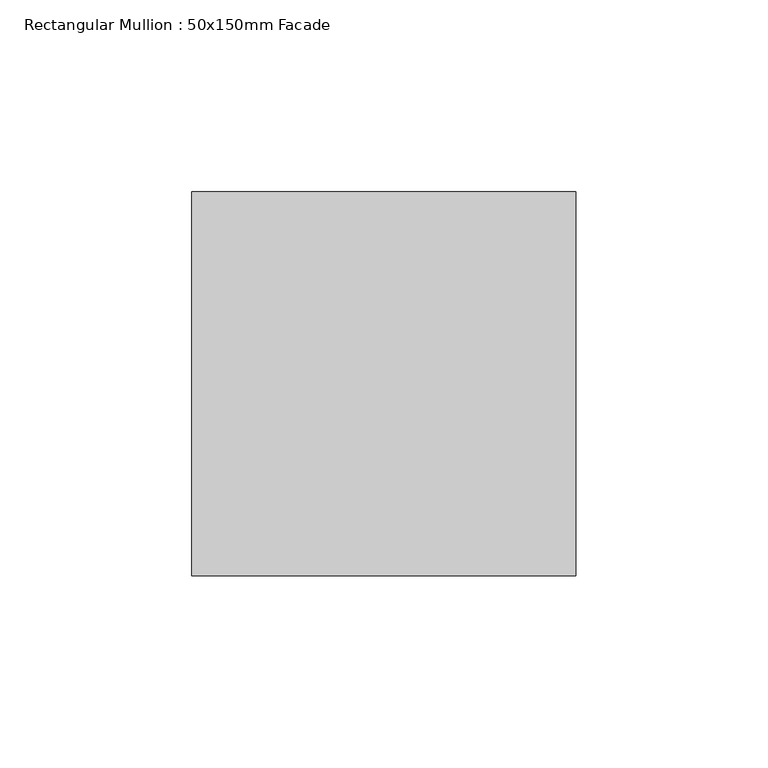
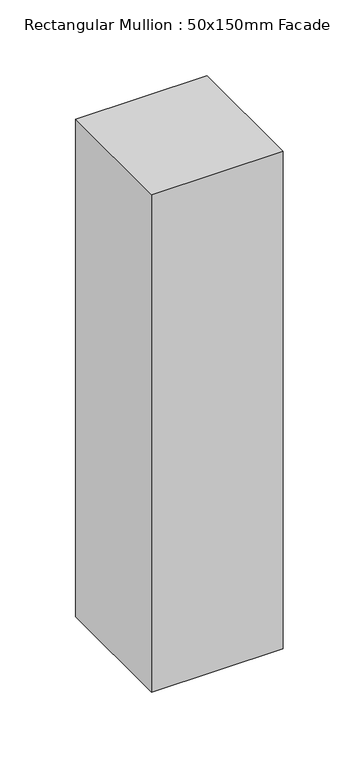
"""IFC4 building model written with IfcOpenShell, lengths in millimetres: member geometry, Rectangular Mullion : 50x150mm Facade."""

from ifc_helpers import new_model, si_unit, frame, origin, place, context, project, spatial, polyline, outline, extrude, source, transform, mapped, element, save


def rectangular_mullion_50x150mm_facade_d6cc5c5f(model_context):
    return source(origin(), model_context, "Body", "SweptSolid", [
        extrude(outline(polyline([(0.0, 50.0), (0.0, -50.0), (-100.0, -50.0), (-100.0, 50.0), (0.0, 50.0)])), frame((0.0, 0.0, -400.0), z_axis=(0.0, 0.0, 1.0), x_axis=(1.0, 0.0, 0.0)), (0.0, 0.0, 1.0), 400.0),
    ])


if __name__ == "__main__":
    model = new_model("IFC4")
    model_context = context("Model", 3, world=origin())
    ifc_project = project(units=[si_unit("LENGTHUNIT", "METRE", prefix="MILLI")], contexts=[model_context])
    site = spatial("IfcSite", under=ifc_project)
    building = spatial("IfcBuilding", under=site)
    placement = place(None, origin())
    rectangular_mullion_50x150mm_facade_shape = rectangular_mullion_50x150mm_facade_d6cc5c5f(model_context)
    element("IfcMember", 1, ObjectType="Rectangular Mullion : 50x150mm Facade", at=placement, inside=building, context=model_context, shape_type="MappedRepresentation", body=[
        mapped(rectangular_mullion_50x150mm_facade_shape, transform((0.0, 0.0, 0.0), x_axis=(1.0, 0.0, 0.0), y_axis=(0.0, 1.0, 0.0), z_axis=(0.0, 0.0, 1.0))),
    ])
    save(model, "model.ifc")
